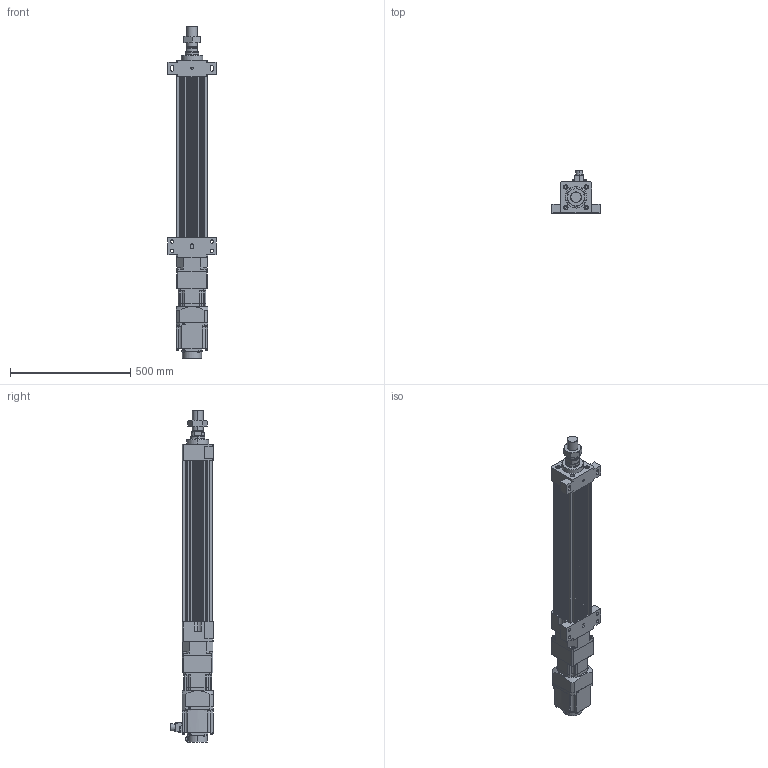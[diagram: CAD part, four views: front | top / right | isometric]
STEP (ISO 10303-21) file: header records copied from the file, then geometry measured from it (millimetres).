
FILE_DESCRIPTION (( 'STEP AP203' ), '1' );
FILE_NAME ('HES130NS(FS)(HS)-S450-W015G00-M-FFB.STEP', '2023-01-30T09:16:31', ( 'tms' ), ( '' ), 'SwSTEP 2.0', 'SolidWorks 2013', '' );
FILE_SCHEMA (( 'CONFIG_CONTROL_DESIGN' ));
Length unit declared in the file: millimetre
Products named in the file (8): M45X1.5P; HG-SR152; AB115-003[HG-SR152]; HES130 ROD M ST450; P0401400706; AB1151; HES130-S450-G120-FFB; HES130NS(FS)(HS)-S450-W015G00-M-FFB
Assembly tree (7 placements, depth 3):
  HES130NS(FS)(HS)-S450-W015G00-M-FFB
    HES130-S450-G120-FFB
    HES130 ROD M ST450
    M45X1.5P
    AB115-003[HG-SR152]
      AB1151
      P0401400706
    HG-SR152
Bounding box: 200 x 177.49 x 1379.5 mm (x, y, z)
Volume: 11037697.5 mm3; surface area: 1420189.4 mm2
Topology: 4 solids, 15 shells, 1211 faces, 3070 edges, 1998 vertices
Faces by surface type: plane 571, cylinder 546, cone 82, bspline 8, torus 4
Entity records: 38310 total; most frequent: CARTESIAN_POINT 7264, DIRECTION 6633, ORIENTED_EDGE 6092, EDGE_CURVE 3056, AXIS2_PLACEMENT_3D 2435, VERTEX_POINT 1998, LINE 1763, VECTOR 1763
